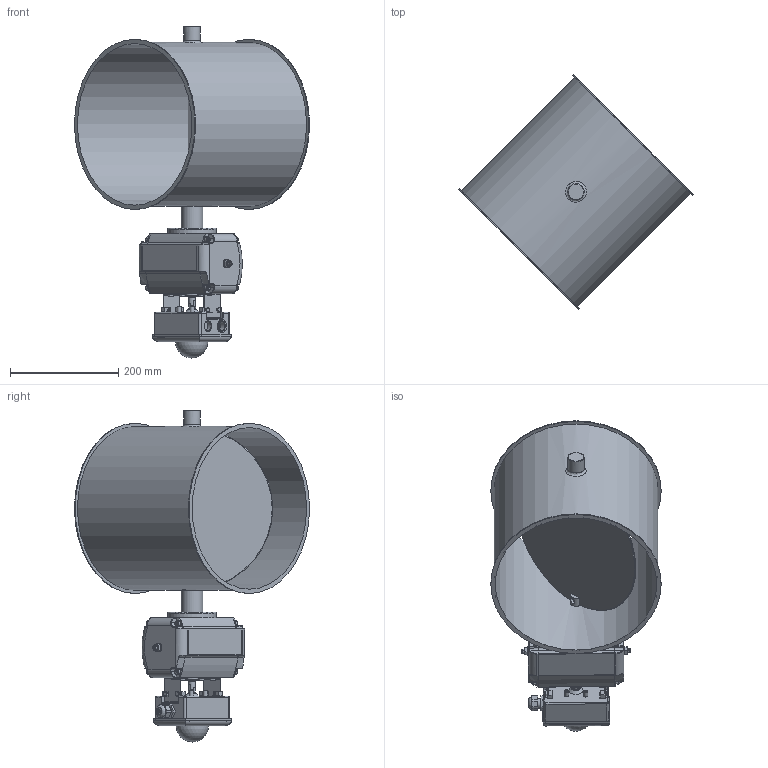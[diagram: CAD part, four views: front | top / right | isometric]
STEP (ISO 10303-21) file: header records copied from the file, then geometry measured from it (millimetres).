
FILE_DESCRIPTION((''),'2;1');
FILE_NAME('U:\Wolfgang\Marcel-3D\fertig\Kapitel 8\3021213.stp','2012-01-13T11:17:22',('iwienholt'),(''),'Autodesk Inventor 2010','Autodesk Inventor 2010','');
FILE_SCHEMA(('AUTOMOTIVE_DESIGN { 1 0 10303 214 1 1 1 1 }'));
Length unit declared in the file: millimetre
Products named in the file (21): 3021213; Bolzen D20; Scheibe300b; 3021211-1; Antrieb Flowserve D20; Pneumatischer SchwenkantriebS85D-2; Body; roter Verschluss; A1 Schwenkantrieb S85D; Body S085D; DIN EN ISO 4018 M5x10; DIN 125-1 A A 13; End Cap L85; End Cap R85; DIN 125-1 A A 8,4; DIN 916 M8  x  40; DIN 555 - ersetzt durch DIN EN 24034 M8; DIN EN ISO 4762 M6 x 12; Halterung; Deckel2; BuchseD20 90-50
Assembly tree (40 placements, depth 5):
  3021213
    Bolzen D20  x2
    Scheibe300b
    3021211-1
    Antrieb Flowserve D20
      Pneumatischer SchwenkantriebS85D-2
        Body
        roter Verschluss
        A1 Schwenkantrieb S85D
          Body S085D
          DIN EN ISO 4018 M5x10  x4
          DIN 125-1 A A 13  x2
          End Cap L85
          End Cap R85
          DIN 125-1 A A 8,4  x2
          DIN 916 M8  x  40  x2
          DIN 555 - ersetzt durch DIN EN 24034 M8  x2
          DIN EN ISO 4762 M6 x 12  x8
        Halterung  x2
        DIN EN ISO 4018 M5x10  x4
        Deckel2
      BuchseD20 90-50
Bounding box: 434.87 x 434.87 x 614 mm (x, y, z)
Volume: 3143148.3 mm3; surface area: 1031881.8 mm2
Topology: 39 solids, 39 shells, 884 faces, 2062 edges, 1309 vertices
Faces by surface type: plane 446, cylinder 195, cone 104, bspline 100, torus 38, sphere 1
Full cylindrical faces by diameter (mm): 3.242 x4, 5 x10, 6 x12, 6.647 x4, 8 x6, 8.376 x1, 8.4 x2, 10 x10, 11.9 x2, 12.5 x1, 13 x5, 14 x1, 16 x2, 17 x1, 17.79 x2, 18 x3, 20 x4, 20.5 x1, 22 x1, 24 x3, 28.5 x1, 30 x3, 40 x3, 90 x1, 299 x2, 303 x1, 315 x2
Entity records: 19059 total; most frequent: CARTESIAN_POINT 5388, DIRECTION 2724, ORIENTED_EDGE 2434, EDGE_CURVE 1217, AXIS2_PLACEMENT_3D 1055, VERTEX_POINT 849, EDGE_LOOP 830, VECTOR 614
